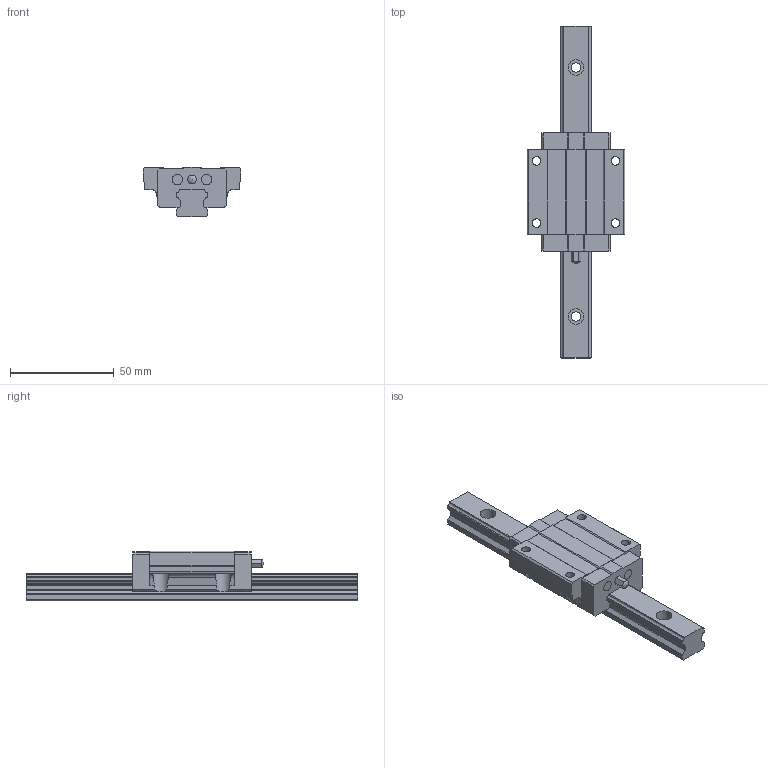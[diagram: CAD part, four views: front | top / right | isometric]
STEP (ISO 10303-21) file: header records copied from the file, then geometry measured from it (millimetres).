
FILE_DESCRIPTION( ( 'Unknown' ), '1' );
FILE_NAME( 'D:/inetpub/WonSTNew/WebParts/Download/H15SFUU1-160L20_20.step', 'Unknown', ( 'Unknown' ), ( 'Unknown' ), 'PSStep 15.0.49', 'Unknown', ' ' );
FILE_SCHEMA( ( 'AUTOMOTIVE_DESIGN { 1 0 10303 214 1 1 1 1 }' ) );
Length unit declared in the file: millimetre
Products named in the file (4): Assem1; H 15_RAIL; H 15SF_BLOCK; A-M4
Assembly tree (3 placements, depth 2):
  Assem1
    H 15_RAIL
    H 15SF_BLOCK
    A-M4
Bounding box: 47 x 160 x 24 mm (x, y, z)
Volume: 61935.4 mm3; surface area: 20209.4 mm2
Topology: 3 solids, 3 shells, 164 faces, 450 edges, 301 vertices
Faces by surface type: plane 99, cylinder 63, cone 1, sphere 1
Full cylindrical faces by diameter (mm): 3.242 x2, 4 x1, 4.134 x4, 4.5 x3, 5 x4, 7.5 x3
Entity records: 6576 total; most frequent: CARTESIAN_POINT 977, DIRECTION 894, ORIENTED_EDGE 850, EDGE_CURVE 425, AXIS2_PLACEMENT_3D 309, VERTEX_POINT 296, LINE 276, VECTOR 276
